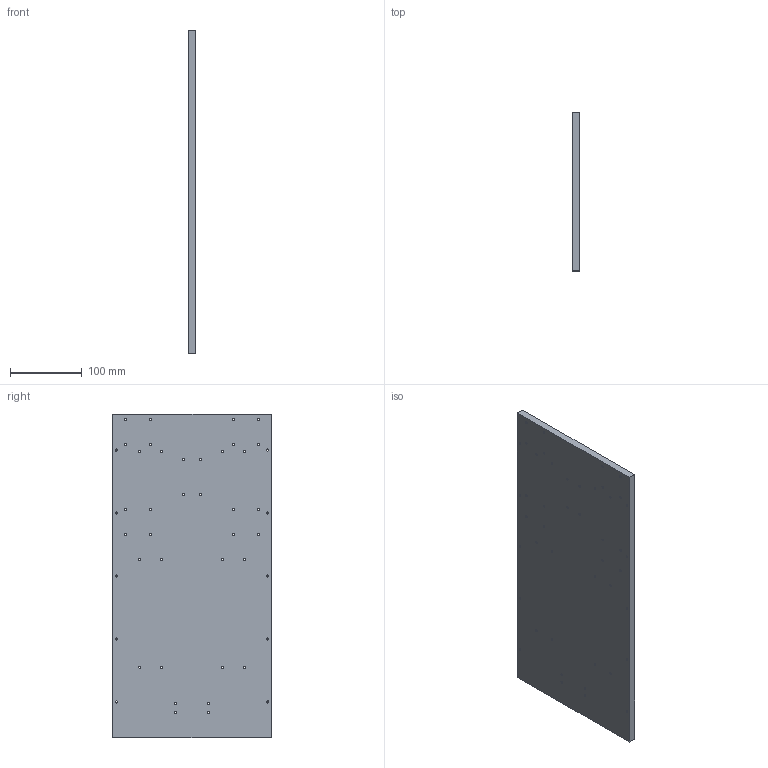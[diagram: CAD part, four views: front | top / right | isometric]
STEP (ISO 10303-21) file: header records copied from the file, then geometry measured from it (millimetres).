
FILE_DESCRIPTION(('CATIA V5 STEP Exchange'),'2;1');
FILE_NAME('E:\CNC\CNC_REV3_PLAN_FINAL\FICHIERS POUR USINAGE DES PIECES PORTIQUE\PIECES_AVEC_TROU\AxeZ_Back.stp','2016-09-06T20:12:51+00:00',('none'),('none'),'CATIA Version 5 Release 19 SP 2 (IN-10)','CATIA V5 STEP AP203','none');
FILE_SCHEMA(('CONFIG_CONTROL_DESIGN'));
Length unit declared in the file: millimetre
Products named in the file (1): AxeZ_Partie_Fixe
Bounding box: 10 x 220 x 450 mm (x, y, z)
Volume: 986748.5 mm3; surface area: 215085.1 mm2
Topology: 1 solids, 1 shells, 98 faces, 288 edges, 192 vertices
Faces by surface type: cylinder 92, plane 6
Entity records: 3188 total; most frequent: ORIENTED_EDGE 576, CARTESIAN_POINT 533, DIRECTION 392, EDGE_CURVE 288, AXIS2_PLACEMENT_3D 237, VERTEX_POINT 192, EDGE_LOOP 190, CIRCLE 184
